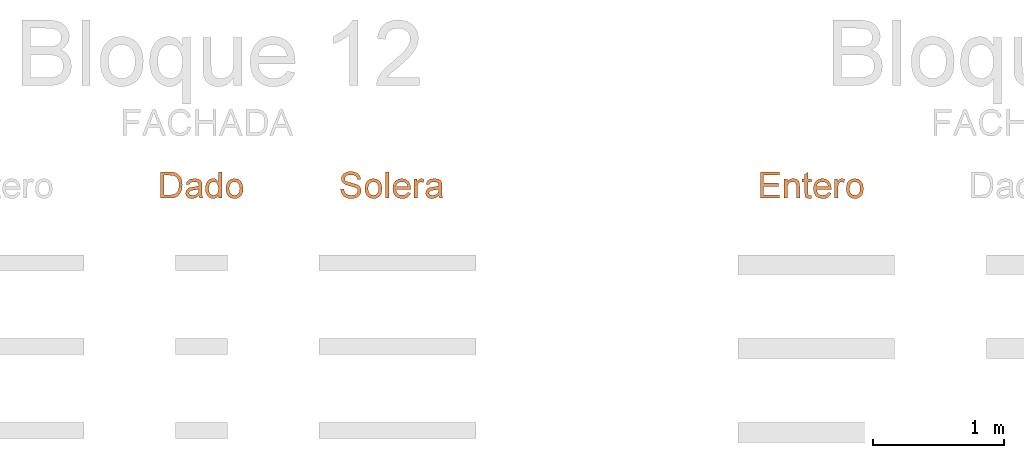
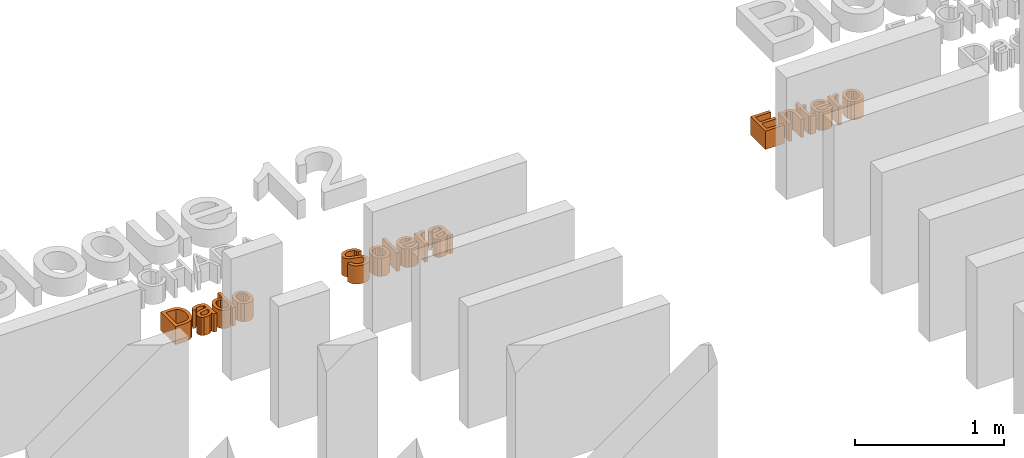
# One storey, part 17 of 19: 3 proxies.
"""IFC2X3 building model written with IfcOpenShell, lengths in metres."""

from ifc_helpers import new_model, entity, si_unit, converted_unit, derived_unit, direction, frame, frame_2d, origin, place, context, subcontext, project, spatial, polyline, rectangle, outline, extrude, type_object, element, save


model = new_model("IFC2X3")

# Units and contexts
model_context = context("Model", 3, precision=1e-05, world=origin(), true_north=direction((6.12303176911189e-17, 1.0)))
body_context = subcontext(model_context, "Body", "Model", "MODEL_VIEW")
ifc_project = project(units=[si_unit("LENGTHUNIT", "METRE"), si_unit("AREAUNIT", "SQUARE_METRE"), si_unit("VOLUMEUNIT", "CUBIC_METRE"), converted_unit("PLANEANGLEUNIT", "DEGREE", entity("IfcRatioMeasure", 0.0174532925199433), si_unit("PLANEANGLEUNIT", "RADIAN"), dimensions=[0, 0, 0, 0, 0, 0, 0]), si_unit("MASSUNIT", "GRAM", prefix="KILO"), derived_unit("MASSDENSITYUNIT", [(si_unit("MASSUNIT", "GRAM", prefix="KILO"), 1), (si_unit("LENGTHUNIT", "METRE"), -3)]), derived_unit("MOMENTOFINERTIAUNIT", [(si_unit("LENGTHUNIT", "METRE"), 4)]), si_unit("TIMEUNIT", "SECOND"), si_unit("FREQUENCYUNIT", "HERTZ"), si_unit("THERMODYNAMICTEMPERATUREUNIT", "DEGREE_CELSIUS"), derived_unit("THERMALTRANSMITTANCEUNIT", [(si_unit("MASSUNIT", "GRAM", prefix="KILO"), 1), (si_unit("THERMODYNAMICTEMPERATUREUNIT", "KELVIN"), -1), (si_unit("TIMEUNIT", "SECOND"), -3)]), derived_unit("VOLUMETRICFLOWRATEUNIT", [(si_unit("LENGTHUNIT", "METRE"), 3), (si_unit("TIMEUNIT", "SECOND"), -1)]), si_unit("ELECTRICCURRENTUNIT", "AMPERE"), si_unit("ELECTRICVOLTAGEUNIT", "VOLT"), si_unit("POWERUNIT", "WATT"), si_unit("FORCEUNIT", "NEWTON", prefix="KILO"), si_unit("ILLUMINANCEUNIT", "LUX"), si_unit("LUMINOUSFLUXUNIT", "LUMEN"), si_unit("LUMINOUSINTENSITYUNIT", "CANDELA"), derived_unit("USERDEFINED", [(si_unit("MASSUNIT", "GRAM", prefix="KILO"), -1), (si_unit("LENGTHUNIT", "METRE"), -2), (si_unit("TIMEUNIT", "SECOND"), 3), (si_unit("LUMINOUSFLUXUNIT", "LUMEN"), 1)]), derived_unit("LINEARVELOCITYUNIT", [(si_unit("LENGTHUNIT", "METRE"), 1), (si_unit("TIMEUNIT", "SECOND"), -1)]), si_unit("PRESSUREUNIT", "PASCAL"), derived_unit("USERDEFINED", [(si_unit("LENGTHUNIT", "METRE"), -2), (si_unit("MASSUNIT", "GRAM", prefix="KILO"), 1), (si_unit("TIMEUNIT", "SECOND"), -2)]), derived_unit("LINEARFORCEUNIT", [(si_unit("MASSUNIT", "GRAM", prefix="KILO"), 1), (si_unit("LENGTHUNIT", "METRE"), 1), (si_unit("TIMEUNIT", "SECOND"), -2), (si_unit("LENGTHUNIT", "METRE"), -1)]), derived_unit("PLANARFORCEUNIT", [(si_unit("MASSUNIT", "GRAM", prefix="KILO"), 1), (si_unit("LENGTHUNIT", "METRE"), 1), (si_unit("TIMEUNIT", "SECOND"), -2), (si_unit("LENGTHUNIT", "METRE"), -2)])], contexts=[model_context])

# Site, building, storey
site_placement = place(None, origin())
site = spatial("IfcSite", under=ifc_project, at=site_placement, Name="Default", CompositionType="ELEMENT")
building_placement = place(site_placement, origin())
building = spatial("IfcBuilding", under=site, at=building_placement, CompositionType="ELEMENT")
storey_placement = place(building_placement, origin())
storey = spatial("IfcBuildingStorey", under=building, at=storey_placement, Name="Nivel 1", CompositionType="ELEMENT", Elevation=0.0)

# Proxies
building_element_proxy_type_1 = type_object("IfcBuildingElementProxyType", Name="Texto de modelo:Subtítulo", PredefinedType="NOTDEFINED")
proxy_1_placement = place(storey_placement, origin())
element("IfcBuildingElementProxy", 1, at=proxy_1_placement, inside=storey, type_object=building_element_proxy_type_1, Name="Texto de modelo:Subtítulo", ObjectType="Texto de modelo:Subtítulo", context=body_context, shape_type="SweptSolid", body=[
    extrude(outline(polyline([(-0.112205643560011, -0.108781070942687), (-0.0395612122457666, -0.108781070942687), (-0.00726117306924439, -0.105347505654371), (0.0167492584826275, -0.0952675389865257), (0.035094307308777, -0.0770451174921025), (0.0488285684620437, -0.0477862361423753), (0.0541751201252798, -0.00724564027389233), (0.0522008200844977, 0.0181382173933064), (0.0462779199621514, 0.0405299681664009), (0.0363818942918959, 0.0595617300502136), (0.0224882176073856, 0.074865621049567), (0.00897468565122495, 0.0836580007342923), (-0.00704044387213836, 0.0892375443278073), (-0.0428966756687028, 0.0921315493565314), (-0.112205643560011, 0.0921315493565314), (-0.112205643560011, -0.108781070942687)]), holes=[polyline([(-0.0870915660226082, -0.0836669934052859), (-0.0870915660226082, 0.0670174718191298), (-0.0433381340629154, 0.0670174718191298), (-0.00772715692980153, 0.06299529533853), (0.00646695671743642, 0.0546075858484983), (0.0183434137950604, 0.0407261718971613), (0.0263816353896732, 0.0205171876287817), (0.0290610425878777, -0.00685323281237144), (0.0276937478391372, -0.0275098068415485), (0.0235918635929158, -0.04484318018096), (0.0170374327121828, -0.0589146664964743), (0.00831249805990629, -0.0697855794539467), (-0.0103268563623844, -0.0800372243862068), (-0.0426514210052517, -0.0836669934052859), (-0.0870915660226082, -0.0836669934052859)])]), frame((-3.54902609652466, 10.1620496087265, 0.0)), (0.0, 0.0, 1.0), 0.15),
    extrude(outline(polyline([(0.0711345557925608, 0.0146039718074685), (0.0909889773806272, 0.0146039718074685), (0.0989307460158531, 0.0384292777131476), (0.0773157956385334, 0.0403604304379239), (0.0355206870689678, 0.0529478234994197), (0.0058786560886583, 0.0628285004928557), (-0.0153562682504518, 0.0686142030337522), (-0.0339620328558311, 0.0666985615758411), (-0.0500317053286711, 0.0539327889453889), (-0.0638910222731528, 0.0264700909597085), (-0.069575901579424, -0.00656115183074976), (-0.0677610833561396, -0.0204670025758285), (-0.0628595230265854, -0.0318600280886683), (-0.0430283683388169, -0.0499228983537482), (-0.0321084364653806, -0.0270903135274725), (-0.0404360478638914, -0.0190535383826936), (-0.0445407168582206, -0.0101752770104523), (-0.0446745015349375, 0.00088231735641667), (-0.0410894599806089, 0.0154570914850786), (-0.034256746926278, 0.0302160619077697), (-0.0254230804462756, 0.0394995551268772), (-0.0168259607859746, 0.0421015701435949), (-0.00564621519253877, 0.0401975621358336), (-0.000387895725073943, 0.0382896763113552), (-0.00597195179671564, -0.00576232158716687), (-0.00926034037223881, -0.027571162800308), (-0.00700345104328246, -0.0468594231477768), (0.00268333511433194, -0.0634021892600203), (0.0200094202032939, -0.0742445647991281), (0.0370349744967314, -0.0765654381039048), (0.0529320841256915, -0.0718015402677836), (0.0663086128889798, -0.0599412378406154), (0.0757724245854, -0.0409728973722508), (0.079580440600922, -0.0138824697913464), (0.0711345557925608, 0.0146039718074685)]), holes=[polyline([(0.0234839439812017, 0.0304875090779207), (0.0301848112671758, 0.0280987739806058), (0.0473557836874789, 0.0181870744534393), (0.0559722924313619, -0.00195430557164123), (0.0564783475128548, -0.0146871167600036), (0.053637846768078, -0.027958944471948), (0.0483232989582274, -0.0395982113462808), (0.0415313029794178, -0.0470610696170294), (0.0339521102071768, -0.0504483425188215), (0.0262759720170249, -0.0498608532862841), (0.0181946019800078, -0.0435477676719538), (0.015007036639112, -0.0321702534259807), (0.0179774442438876, -0.0103846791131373), (0.0234839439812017, 0.0304875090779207)])]), frame((-3.4056298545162, 10.1349700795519, 0.0), z_axis=(0.0, 0.0, 1.0), x_axis=(0.316227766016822, -0.948683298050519, 0.0)), (0.0, 0.0, 1.0), 0.15),
    extrude(outline(polyline([(0.0429290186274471, -0.0757009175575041), (0.0680430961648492, -0.0757009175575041), (0.0680430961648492, 0.125211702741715), (0.0429290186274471, 0.125211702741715), (0.0429290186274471, 0.050359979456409), (0.0263988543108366, 0.0681409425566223), (0.0155340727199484, 0.0732728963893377), (0.00324681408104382, 0.0749835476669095), (-0.0136205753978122, 0.0725923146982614), (-0.0288079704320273, 0.065418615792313), (-0.0413650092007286, 0.0537567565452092), (-0.0503413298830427, 0.0379010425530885), (-0.0557308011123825, 0.0189305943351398), (-0.0575272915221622, -0.00207546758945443), (-0.0555775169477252, -0.0233451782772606), (-0.0497281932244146, -0.0420274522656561), (-0.0403349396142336, -0.0574968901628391), (-0.0277533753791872, -0.069128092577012), (-0.0128909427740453, -0.0764121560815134), (0.00334491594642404, -0.0788401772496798), (0.0156229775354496, -0.0771632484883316), (0.0263130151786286, -0.0721324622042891), (0.0354150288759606, -0.0637478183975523), (0.0429290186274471, -0.052009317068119), (0.0429290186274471, -0.0757009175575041)]), holes=[polyline([(-0.0324132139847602, -0.00197736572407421), (-0.0297644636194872, 0.0213034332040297), (-0.0218182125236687, 0.0373860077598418), (-0.00991109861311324, 0.0467486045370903), (0.00462024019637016, 0.0498694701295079), (0.0195255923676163, 0.0466198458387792), (0.031868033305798, 0.0368709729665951), (0.0401637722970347, 0.0201813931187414), (0.0429290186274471, -0.00389035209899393), (0.0402128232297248, -0.0259080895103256), (0.032064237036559, -0.0414388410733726), (0.0200283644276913, -0.0506542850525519), (0.00565030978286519, -0.0537260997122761), (-0.00873387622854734, -0.0505071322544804), (-0.0210824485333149, -0.0408502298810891), (-0.029580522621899, -0.0246940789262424), (-0.0324132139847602, -0.00197736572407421)])]), frame((-3.2615251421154, 10.1289694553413, 0.0)), (0.0, 0.0, 1.0), 0.15),
    extrude(outline(polyline([(-0.0116534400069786, -0.0669843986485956), (0.0215735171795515, -0.0669843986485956), (0.0474010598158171, -0.0567621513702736), (0.0650090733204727, -0.0379496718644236), (0.0735774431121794, -0.0121789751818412), (0.0737787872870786, 0.00568792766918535), (0.0693254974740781, 0.0227506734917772), (0.0604863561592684, 0.0378207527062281), (0.0475301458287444, 0.0497096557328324), (0.0292360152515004, 0.0584068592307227), (0.00438311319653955, 0.063901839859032), (-0.0272289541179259, 0.063628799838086), (-0.052584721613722, 0.0531926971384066), (-0.0702507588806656, 0.0343634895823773), (-0.0787936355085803, 0.00891113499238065), (-0.0780541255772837, -0.0155295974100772), (-0.0686800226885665, -0.0371544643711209), (-0.0589084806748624, -0.0481042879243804), (-0.0461468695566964, -0.0567258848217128), (-0.0116534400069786, -0.0669843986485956)]), holes=[polyline([(-0.00825874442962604, -0.0421007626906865), (-0.0303624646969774, -0.0361073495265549), (-0.0451706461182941, -0.0252557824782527), (-0.0529373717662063, -0.0109345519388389), (-0.053916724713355, 0.00546785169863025), (-0.0485294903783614, 0.0208219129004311), (-0.0371292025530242, 0.0324839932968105), (-0.0201048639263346, 0.0389852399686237), (0.00215452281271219, 0.038856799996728), (0.024762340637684, 0.0327936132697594), (0.0398195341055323, 0.0219075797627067), (0.0476807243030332, 0.00759803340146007), (0.0487005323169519, -0.00873569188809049), (0.043290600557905, -0.0242537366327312), (0.0318894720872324, -0.0359218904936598), (0.0146540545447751, -0.0423382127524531), (-0.00825874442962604, -0.0421007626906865)])]), frame((-3.09413986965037, 10.1246816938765, 0.0), z_axis=(0.0, 0.0, 1.0), x_axis=(0.137105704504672, -0.990556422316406, 0.0)), (0.0, 0.0, 1.0), 0.15),
])
building_element_proxy_type_2 = type_object("IfcBuildingElementProxyType", Name="Texto de modelo:Subtítulo", PredefinedType="NOTDEFINED")
proxy_2_placement = place(storey_placement, origin())
element("IfcBuildingElementProxy", 2, at=proxy_2_placement, inside=storey, type_object=building_element_proxy_type_2, Name="Texto de modelo:Subtítulo", ObjectType="Texto de modelo:Subtítulo", context=body_context, shape_type="SweptSolid", body=[
    extrude(outline(polyline([(0.0218430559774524, -0.0830511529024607), (0.0423433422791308, -0.0830511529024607), (0.0613692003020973, -0.0779015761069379), (0.0778293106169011, -0.0679440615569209), (0.0906323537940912, -0.0535202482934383), (0.09983646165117, -0.0344031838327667), (0.10549976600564, -0.0103659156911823), (0.10647807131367, 0.00974895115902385), (0.103281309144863, 0.0283577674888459), (0.0961570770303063, 0.0444883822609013), (0.085352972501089, 0.0571686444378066), (0.0719268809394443, 0.0659642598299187), (0.0569366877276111, 0.0704409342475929), (0.0416687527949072, 0.0707071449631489), (0.027700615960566, 0.0668285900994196), (0.0151233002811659, 0.0585811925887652), (0.00402782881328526, 0.0457408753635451), (-0.0149040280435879, 0.00360508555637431), (-0.0258166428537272, -0.0219105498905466), (-0.0347441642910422, -0.034926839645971), (-0.0432956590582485, -0.0397313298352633), (-0.0531344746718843, -0.0403061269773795), (-0.0639228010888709, -0.0358704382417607), (-0.072119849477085, -0.0261140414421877), (-0.0763993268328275, -0.0106988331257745), (-0.0754349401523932, 0.0107132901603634), (-0.0702469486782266, 0.0310091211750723), (-0.0615846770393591, 0.0449195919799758), (-0.0494863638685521, 0.0528593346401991), (-0.0339902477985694, 0.0552429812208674), (-0.0303397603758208, 0.0800903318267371), (-0.0472153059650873, 0.079706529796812), (-0.0628948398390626, 0.0748089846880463), (-0.0766029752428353, 0.0654449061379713), (-0.0875643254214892, 0.0516615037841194), (-0.0955734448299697, 0.0340978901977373), (-0.100424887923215, 0.0133931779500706), (-0.101575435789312, -0.00620680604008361), (-0.0990665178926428, -0.0244356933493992), (-0.0928592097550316, -0.040227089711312), (-0.0829145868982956, -0.0525146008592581), (-0.0702935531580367, -0.0609688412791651), (-0.0560570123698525, -0.0652604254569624), (-0.042783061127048, -0.0654319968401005), (-0.0303321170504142, -0.0619254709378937), (-0.0189136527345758, -0.0546481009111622), (-0.00873714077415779, -0.0435071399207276), (0.00923839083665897, -0.00636211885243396), (0.0240413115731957, 0.0284230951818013), (0.0307494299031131, 0.038270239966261), (0.0378057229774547, 0.0436538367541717), (0.053917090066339, 0.0455008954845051), (0.0697778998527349, 0.0375436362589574), (0.0797867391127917, 0.0189441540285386), (0.0805098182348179, -0.00768602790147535), (0.0767013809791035, -0.023189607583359), (0.0701386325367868, -0.036602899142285), (0.0615194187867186, -0.0470988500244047), (0.0515415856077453, -0.0538504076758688), (0.0254935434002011, -0.058203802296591), (0.0218430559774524, -0.0830511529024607)])), frame((-2.20614161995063, 10.1560153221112, 0.0), z_axis=(0.0, 0.0, 1.0), x_axis=(0.145356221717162, -0.989379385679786, 0.0)), (0.0, 0.0, 1.0), 0.15),
    extrude(outline(polyline([(-0.0116534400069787, -0.0669843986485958), (0.0215735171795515, -0.0669843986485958), (0.047401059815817, -0.0567621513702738), (0.0650090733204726, -0.0379496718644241), (0.0735774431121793, -0.0121789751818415), (0.0737787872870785, 0.00568792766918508), (0.069325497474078, 0.0227506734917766), (0.0604863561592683, 0.0378207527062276), (0.0475301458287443, 0.0497096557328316), (0.0292360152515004, 0.0584068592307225), (0.00438311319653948, 0.0639018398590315), (-0.0272289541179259, 0.0636287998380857), (-0.052584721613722, 0.0531926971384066), (-0.0702507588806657, 0.034363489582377), (-0.0787936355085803, 0.00891113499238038), (-0.0780541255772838, -0.0155295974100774), (-0.0686800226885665, -0.0371544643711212), (-0.0589084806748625, -0.0481042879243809), (-0.0461468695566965, -0.0567258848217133), (-0.0116534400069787, -0.0669843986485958)]), holes=[polyline([(-0.00825874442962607, -0.0421007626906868), (-0.0303624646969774, -0.0361073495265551), (-0.0451706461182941, -0.0252557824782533), (-0.0529373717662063, -0.0109345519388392), (-0.053916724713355, 0.00546785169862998), (-0.0485294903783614, 0.0208219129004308), (-0.0371292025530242, 0.03248399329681), (-0.0201048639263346, 0.0389852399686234), (0.00215452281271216, 0.0388567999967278), (0.0247623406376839, 0.0327936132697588), (0.0398195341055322, 0.0219075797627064), (0.0476807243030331, 0.00759803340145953), (0.0487005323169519, -0.00873569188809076), (0.0432906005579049, -0.0242537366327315), (0.0318894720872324, -0.0359218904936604), (0.0146540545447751, -0.0423382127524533), (-0.00825874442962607, -0.0421007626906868)])]), frame((-2.03196979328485, 10.1246816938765, 0.0), z_axis=(0.0, 0.0, 1.0), x_axis=(0.137105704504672, -0.990556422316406, 0.0)), (0.0, 0.0, 1.0), 0.15),
    extrude(rectangle(XDim=0.0251140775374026, YDim=0.200912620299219, at=frame_2d((0.0, 1.08246744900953e-15), x_axis=(1.0, 0.0))), frame((-1.92726008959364, 10.1537248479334, 0.0)), (0.0, 0.0, 1.0), 0.15),
    extrude(outline(polyline([(-0.00993794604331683, -0.0410894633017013), (-0.0216263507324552, -0.0629882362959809), (-0.00136076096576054, -0.0664886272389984), (0.0181427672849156, -0.0629678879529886), (0.0362596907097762, -0.0523738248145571), (0.0523654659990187, -0.0346542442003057), (0.0653616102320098, -0.00774419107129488), (0.066315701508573, 0.01938007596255), (0.0551946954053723, 0.0449978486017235), (0.0319655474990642, 0.0673884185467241), (0.00225549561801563, 0.082499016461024), (-0.0263080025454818, 0.0848576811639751), (-0.0517924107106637, 0.075514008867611), (-0.0722651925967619, 0.0555175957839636), (-0.0838796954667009, 0.030311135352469), (-0.0839813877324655, 0.0036571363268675), (-0.0721795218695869, -0.0222407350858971), (-0.048083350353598, -0.045178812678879), (-0.0424775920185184, -0.0489757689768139), (0.022833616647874, 0.0430743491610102), (0.0356497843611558, 0.0286508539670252), (0.0410775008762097, 0.0124178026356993), (0.0395747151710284, -0.00438600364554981), (0.0315993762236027, -0.0205217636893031), (0.0130702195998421, -0.0375669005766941), (0.00222602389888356, -0.0410894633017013), (-0.00993794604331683, -0.0410894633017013)]), holes=[polyline([(0.00235136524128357, 0.0576068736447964), (-0.0485124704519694, -0.0140810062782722), (-0.0573680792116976, -0.00363287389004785), (-0.0612558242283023, 0.00728999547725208), (-0.0599840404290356, 0.0243403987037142), (-0.0517261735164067, 0.0410650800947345), (-0.0400149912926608, 0.0535127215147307), (-0.0261693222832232, 0.0608523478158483), (-0.011582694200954, 0.0624337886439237), (0.00235136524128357, 0.0576068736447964)])]), frame((-1.81299264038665, 10.1128899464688, 0.0), z_axis=(0.0, 0.0, -1.0), x_axis=(-0.578660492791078, -0.815568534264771, 0.0)), (0.0, 0.0, -1.0), 0.15),
    extrude(outline(polyline([(-0.0370877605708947, -0.111431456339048), (-0.0119736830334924, -0.111431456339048), (-0.0119736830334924, -0.0338819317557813), (-0.00790245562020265, -0.00454947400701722), (0.00114744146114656, 0.00918478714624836), (0.0153476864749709, 0.0141389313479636), (0.0330060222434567, 0.00898858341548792), (0.0413937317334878, 0.0315029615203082), (0.0286895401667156, 0.037315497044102), (0.0161815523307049, 0.0392530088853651), (0.000485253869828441, 0.0343969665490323), (-0.0151129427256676, 0.014286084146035), (-0.0151129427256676, 0.0361137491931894), (-0.0370877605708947, 0.0361137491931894), (-0.0370877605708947, -0.111431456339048)])), frame((-1.68612044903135, 10.1646999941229, 0.0)), (0.0, 0.0, 1.0), 0.15),
    extrude(outline(polyline([(0.0711345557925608, 0.0146039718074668), (0.0909889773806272, 0.0146039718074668), (0.0989307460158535, 0.0384292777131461), (0.0773157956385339, 0.0403604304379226), (0.0355206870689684, 0.052947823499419), (0.00587865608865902, 0.0628285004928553), (-0.015356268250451, 0.0686142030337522), (-0.0339620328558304, 0.066698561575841), (-0.0500317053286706, 0.053932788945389), (-0.0638910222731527, 0.0264700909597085), (-0.0695759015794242, -0.00656115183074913), (-0.06776108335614, -0.0204670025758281), (-0.0628595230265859, -0.0318600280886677), (-0.0430283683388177, -0.0499228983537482), (-0.0321084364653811, -0.0270903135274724), (-0.0404360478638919, -0.0190535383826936), (-0.044540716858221, -0.0101752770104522), (-0.0446745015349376, 0.000882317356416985), (-0.0410894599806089, 0.0154570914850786), (-0.0342567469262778, 0.0302160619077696), (-0.0254230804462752, 0.0394995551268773), (-0.0168259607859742, 0.0421015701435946), (-0.0056462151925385, 0.0401975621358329), (-0.00038789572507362, 0.0382896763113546), (-0.0059719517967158, -0.00576232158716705), (-0.00926034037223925, -0.0275711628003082), (-0.00700345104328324, -0.0468594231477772), (0.00268333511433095, -0.0634021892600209), (0.0200094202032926, -0.0742445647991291), (0.0370349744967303, -0.0765654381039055), (0.0529320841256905, -0.0718015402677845), (0.0663086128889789, -0.0599412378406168), (0.0757724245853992, -0.0409728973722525), (0.0795804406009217, -0.0138824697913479), (0.0711345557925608, 0.0146039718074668)]), holes=[polyline([(0.0234839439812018, 0.0304875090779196), (0.030184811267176, 0.0280987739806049), (0.0473557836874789, 0.0181870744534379), (0.0559722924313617, -0.00195430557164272), (0.0564783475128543, -0.0146871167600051), (0.0536378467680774, -0.0279589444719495), (0.0483232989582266, -0.0395982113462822), (0.0415313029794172, -0.0470610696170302), (0.033952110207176, -0.0504483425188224), (0.0262759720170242, -0.0498608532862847), (0.018194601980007, -0.0435477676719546), (0.0150070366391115, -0.0321702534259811), (0.0179774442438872, -0.0103846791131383), (0.0234839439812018, 0.0304875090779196)])]), frame((-1.57120189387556, 10.1349700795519, 0.0), z_axis=(0.0, 0.0, 1.0), x_axis=(0.316227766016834, -0.948683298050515, 0.0)), (0.0, 0.0, 1.0), 0.15),
])
building_element_proxy_type_3 = type_object("IfcBuildingElementProxyType", Name="Texto de modelo:Subtítulo", PredefinedType="NOTDEFINED")
proxy_3_placement = place(storey_placement, origin())
element("IfcBuildingElementProxy", 3, at=proxy_3_placement, inside=storey, type_object=building_element_proxy_type_3, Name="Texto de modelo:Subtítulo", ObjectType="Texto de modelo:Subtítulo", context=body_context, shape_type="SweptSolid", body=[
    extrude(outline(polyline([(-0.08005112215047, -0.101502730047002), (0.0674940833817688, -0.101502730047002), (0.0674940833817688, -0.0763886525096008), (-0.0549370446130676, -0.0763886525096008), (-0.0549370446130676, -0.0104641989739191), (0.0580763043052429, -0.0104641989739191), (0.0580763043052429, 0.0146498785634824), (-0.0549370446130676, 0.0146498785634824), (-0.0549370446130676, 0.0742958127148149), (0.0643548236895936, 0.0742958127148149), (0.0643548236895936, 0.0994098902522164), (-0.08005112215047, 0.0994098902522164), (-0.08005112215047, -0.101502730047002)])), frame((1.00433320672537, 10.1547712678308, 0.0)), (0.0, 0.0, 1.0), 0.15),
    extrude(outline(polyline([(-0.0610913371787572, -0.102201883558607), (-0.0359772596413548, -0.102201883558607), (-0.0359772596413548, -0.0239165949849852), (-0.0331139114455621, -0.000776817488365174), (-0.024523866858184, 0.0135092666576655), (-0.0119852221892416, 0.02090369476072), (0.00272392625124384, 0.0233685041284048), (0.0199653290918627, 0.0189784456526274), (0.0301924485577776, 0.00723074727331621), (0.0330864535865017, -0.0149893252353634), (0.0330864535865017, -0.102201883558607), (0.0582005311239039, -0.102201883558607), (0.0582005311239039, -0.011604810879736), (0.0568761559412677, 0.0126754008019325), (0.0493468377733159, 0.0311430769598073), (0.033160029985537, 0.0437001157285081), (0.00944390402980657, 0.0484825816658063), (-0.00454174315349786, 0.046998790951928), (-0.0167738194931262, 0.0425474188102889), (-0.0272523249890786, 0.0351284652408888), (-0.0359772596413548, 0.0247419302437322), (-0.0359772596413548, 0.0453433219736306), (-0.0610913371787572, 0.0453433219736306), (-0.0610913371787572, -0.102201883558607)])), frame((1.16745048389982, 10.1554704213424, 0.0)), (0.0, 0.0, 1.0), 0.15),
    extrude(outline(polyline([(-0.035132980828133, -0.0583737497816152), (-0.0402910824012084, -0.0796644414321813), (-0.0218126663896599, -0.0838186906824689), (-0.000471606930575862, -0.0816406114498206), (0.0110045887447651, -0.0717345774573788), (0.0167042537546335, -0.0436466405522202), (0.0243888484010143, 0.0379564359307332), (0.043141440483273, 0.0361904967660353), (0.0454960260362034, 0.0611939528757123), (0.0267434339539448, 0.0629598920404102), (0.0301051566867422, 0.0986581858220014), (0.00648593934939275, 0.115712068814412), (0.00173997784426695, 0.0653144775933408), (-0.0232634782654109, 0.0676690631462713), (-0.0256180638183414, 0.0426656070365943), (-0.000614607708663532, 0.0403110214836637), (-0.00823022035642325, -0.0405595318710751), (-0.0107628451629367, -0.0533277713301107), (-0.015465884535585, -0.0574914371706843), (-0.0241462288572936, -0.0583737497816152), (-0.035132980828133, -0.0583737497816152)])), frame((1.28404492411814, 10.1356238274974, 0.0), z_axis=(0.0, 0.0, -1.0), x_axis=(-0.995595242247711, 0.0937556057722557, 0.0)), (0.0, 0.0, -1.0), 0.15),
    extrude(outline(polyline([(-0.00993794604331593, -0.0410894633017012), (-0.021626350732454, -0.0629882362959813), (-0.00136076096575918, -0.0664886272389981), (0.0181427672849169, -0.062967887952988), (0.0362596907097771, -0.0523738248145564), (0.0523654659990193, -0.0346542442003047), (0.0653616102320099, -0.00774419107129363), (0.0663157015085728, 0.0193800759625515), (0.0551946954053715, 0.0449978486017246), (0.0319655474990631, 0.0673884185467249), (0.00225549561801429, 0.0824990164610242), (-0.0263080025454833, 0.0848576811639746), (-0.0517924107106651, 0.07551400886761), (-0.0722651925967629, 0.0555175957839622), (-0.0838796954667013, 0.0303111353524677), (-0.0839813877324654, 0.00365713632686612), (-0.0721795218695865, -0.0222407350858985), (-0.0480833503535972, -0.0451788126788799), (-0.0424775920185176, -0.0489757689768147), (0.0228336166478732, 0.0430743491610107), (0.0356497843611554, 0.0286508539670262), (0.0410775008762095, 0.0124178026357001), (0.0395747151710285, -0.00438600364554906), (0.0315993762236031, -0.0205217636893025), (0.013070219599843, -0.0375669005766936), (0.0022260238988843, -0.0410894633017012), (-0.00993794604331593, -0.0410894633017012)]), holes=[polyline([(0.00235136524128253, 0.0576068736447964), (-0.0485124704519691, -0.0140810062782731), (-0.0573680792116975, -0.00363287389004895), (-0.0612558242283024, 0.00728999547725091), (-0.059984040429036, 0.0243403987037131), (-0.0517261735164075, 0.0410650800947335), (-0.0400149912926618, 0.0535127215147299), (-0.0261693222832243, 0.0608523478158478), (-0.011582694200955, 0.0624337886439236), (0.00235136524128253, 0.0576068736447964)])]), frame((1.40270365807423, 10.1128899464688, 0.0), z_axis=(0.0, 0.0, -1.0), x_axis=(-0.578660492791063, -0.815568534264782, 0.0)), (0.0, 0.0, -1.0), 0.15),
    extrude(outline(polyline([(-0.0370877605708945, -0.111431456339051), (-0.0119736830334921, -0.111431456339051), (-0.0119736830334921, -0.0338819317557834), (-0.00790245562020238, -0.00454947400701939), (0.00114744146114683, 0.0091847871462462), (0.0153476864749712, 0.0141389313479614), (0.033006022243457, 0.00898858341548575), (0.0413937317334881, 0.031502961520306), (0.0286895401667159, 0.0373154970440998), (0.0161815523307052, 0.039253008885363), (0.000485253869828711, 0.0343969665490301), (-0.0151129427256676, 0.0142860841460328), (-0.0151129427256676, 0.0361137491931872), (-0.0370877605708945, 0.0361137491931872), (-0.0370877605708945, -0.111431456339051)])), frame((1.52957584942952, 10.1646999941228, 0.0)), (0.0, 0.0, 1.0), 0.15),
    extrude(outline(polyline([(-0.0116534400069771, -0.066984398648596), (0.0215735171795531, -0.066984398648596), (0.0474010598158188, -0.0567621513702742), (0.0650090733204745, -0.0379496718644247), (0.0735774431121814, -0.0121789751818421), (0.0737787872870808, 0.00568792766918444), (0.0693254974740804, 0.022750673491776), (0.0604863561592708, 0.037820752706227), (0.0475301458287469, 0.0497096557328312), (0.029236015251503, 0.0584068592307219), (0.00438311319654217, 0.0639018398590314), (-0.0272289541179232, 0.0636287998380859), (-0.0525847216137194, 0.053192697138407), (-0.0702507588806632, 0.0343634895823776), (-0.0787936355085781, 0.008911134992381), (-0.0780541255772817, -0.0155295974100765), (-0.0686800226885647, -0.0371544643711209), (-0.0589084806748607, -0.0481042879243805), (-0.0461468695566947, -0.0567258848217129), (-0.0116534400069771, -0.066984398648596)]), holes=[polyline([(-0.00825874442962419, -0.0421007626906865), (-0.0303624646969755, -0.0361073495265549), (-0.0451706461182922, -0.0252557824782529), (-0.0529373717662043, -0.0109345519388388), (-0.0539167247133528, 0.0054678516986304), (-0.0485294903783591, 0.0208219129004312), (-0.0371292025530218, 0.0324839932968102), (-0.0201048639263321, 0.0389852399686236), (0.00215452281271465, 0.0388567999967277), (0.0247623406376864, 0.0327936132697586), (0.0398195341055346, 0.0219075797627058), (0.0476807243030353, 0.00759803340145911), (0.048700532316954, -0.00873569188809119), (0.0432906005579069, -0.0242537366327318), (0.0318894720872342, -0.0359218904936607), (0.0146540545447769, -0.0423382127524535), (-0.00825874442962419, -0.0421007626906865)])]), frame((1.64833693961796, 10.1246816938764, 0.0), z_axis=(0.0, 0.0, 1.0), x_axis=(0.13710570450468, -0.990556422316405, 0.0)), (0.0, 0.0, 1.0), 0.15),
])

save(model, "model.ifc")
